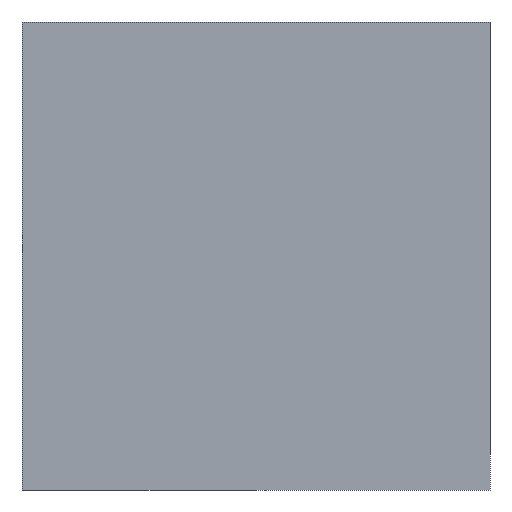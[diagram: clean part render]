
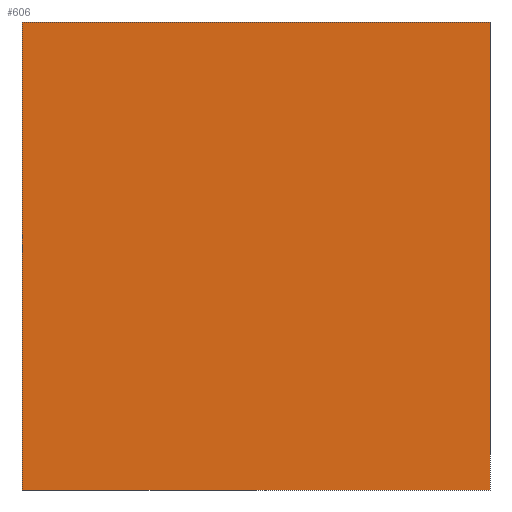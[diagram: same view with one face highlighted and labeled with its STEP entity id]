
A CAD part, left-side view. The second image highlights one B-rep face of the part: STEP entity #606.
In plain terms, the highlighted planar face has unit normal (-1, 0, 0).
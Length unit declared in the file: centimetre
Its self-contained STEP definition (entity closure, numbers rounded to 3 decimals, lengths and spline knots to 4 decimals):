
#12 = ORIENTED_EDGE ( 'NONE', *, *, #230, .F. ) ;
#29 = CARTESIAN_POINT ( 'NONE',  ( 0., 1000., 1000. ) ) ;
#39 = EDGE_CURVE ( 'NONE', #256, #368, #407, .T. ) ;
#49 = CARTESIAN_POINT ( 'NONE',  ( 0., 1000., 1000. ) ) ;
#62 = VECTOR ( 'NONE', #610, 100. ) ;
#75 = DIRECTION ( 'NONE',  ( 0., -1., 0. ) ) ;
#76 = CARTESIAN_POINT ( 'NONE',  ( 0., 1000., 0. ) ) ;
#95 = CARTESIAN_POINT ( 'NONE',  ( 0., 0., 0. ) ) ;
#127 = AXIS2_PLACEMENT_3D ( 'NONE', #277, #177, #330 ) ;
#136 = VERTEX_POINT ( 'NONE', #29 ) ;
#158 = VERTEX_POINT ( 'NONE', #425 ) ;
#177 = DIRECTION ( 'NONE',  ( 1., 0., 0. ) ) ;
#221 = LINE ( 'NONE', #49, #62 ) ;
#228 = VECTOR ( 'NONE', #514, 100. ) ;
#230 = EDGE_CURVE ( 'NONE', #158, #368, #577, .T. ) ;
#246 = FACE_OUTER_BOUND ( 'NONE', #497, .T. ) ;
#256 = VERTEX_POINT ( 'NONE', #468 ) ;
#273 = PLANE ( 'NONE',  #127 ) ;
#274 = DIRECTION ( 'NONE',  ( 0., 0., -1. ) ) ;
#277 = CARTESIAN_POINT ( 'NONE',  ( 0., 1000., 1000. ) ) ;
#279 = VECTOR ( 'NONE', #75, 100. ) ;
#330 = DIRECTION ( 'NONE',  ( 0., 0., -1. ) ) ;
#338 = ORIENTED_EDGE ( 'NONE', *, *, #39, .T. ) ;
#368 = VERTEX_POINT ( 'NONE', #95 ) ;
#384 = CARTESIAN_POINT ( 'NONE',  ( 0., 0., 1000. ) ) ;
#399 = ORIENTED_EDGE ( 'NONE', *, *, #520, .F. ) ;
#407 = LINE ( 'NONE', #76, #228 ) ;
#425 = CARTESIAN_POINT ( 'NONE',  ( 0., 0., 1000. ) ) ;
#463 = ORIENTED_EDGE ( 'NONE', *, *, #595, .T. ) ;
#468 = CARTESIAN_POINT ( 'NONE',  ( 0., 1000., 0. ) ) ;
#479 = VECTOR ( 'NONE', #274, 100. ) ;
#497 = EDGE_LOOP ( 'NONE', ( #338, #12, #399, #463 ) ) ;
#514 = DIRECTION ( 'NONE',  ( 0., -1., 0. ) ) ;
#520 = EDGE_CURVE ( 'NONE', #136, #158, #554, .T. ) ;
#551 = CARTESIAN_POINT ( 'NONE',  ( 0., 1000., 1000. ) ) ;
#554 = LINE ( 'NONE', #551, #279 ) ;
#577 = LINE ( 'NONE', #384, #479 ) ;
#595 = EDGE_CURVE ( 'NONE', #136, #256, #221, .T. ) ;
#606 = ADVANCED_FACE ( 'NONE', ( #246 ), #273, .F. ) ;
#610 = DIRECTION ( 'NONE',  ( 0., 0., -1. ) ) ;
